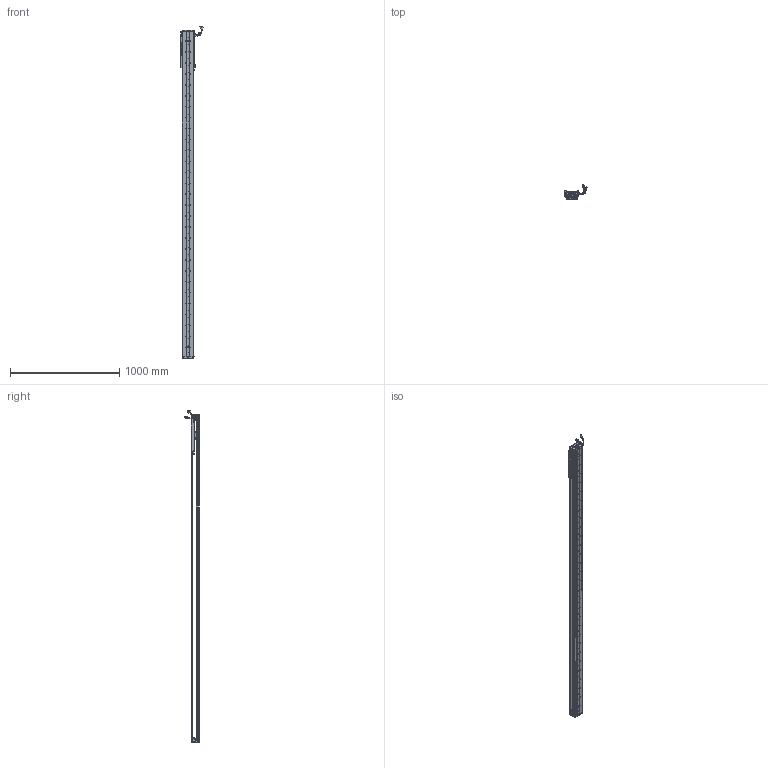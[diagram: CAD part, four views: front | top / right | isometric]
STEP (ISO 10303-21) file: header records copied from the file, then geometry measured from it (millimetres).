
FILE_DESCRIPTION (( 'STEP AP203' ), '1' );
FILE_NAME ('Z4-RY100D-1-L500-B-K.SLDASM_2600.step', '2021-05-17T03:04:45', ( '盈信电脑' ), ( '东莞市道滘镇水果街19号' ), 'SwSTEP 2.0', 'SolidWorks 2016', '' );
FILE_SCHEMA (( 'CONFIG_CONTROL_DESIGN' ));
Length unit declared in the file: millimetre
Products named in the file (36): SCREW-M1.6-2; SCALE; PBU_SHEET; SCALE-Part-1; LABEL; 100-Z-臏賑輸盄裔(21遴); SCREW-M1.7; SCREW-M1.6-1; Z4-RY100-L500詩湍90mm遵_2600; SEAL; Z4-RY100D-1-L500-B-K.SLDASM_2600; Z-RY100D詩湍狟揤裔; 140雄赽晤鎢ん堤盄; SCREW-M1.6-3; PSLH080_PSLF2; SCREW-M1.7-1; 080黍杅芛假蚾釱21遴; SHIELDPLATE; 140蚥薯蝶輸; HARNESS-Part-1; HARNESS; Z-RY100D詩湍奻揤裔; COVER-Part-1; HOLDER0; Z-RY100D覜茼んえ; Z4-RY100D-500-倰第菁釱_2600; COVER; Z-100詩湍傷裔啣; HARNESS-Part-2; SCREW-M1.6; 榋妏寠巭燃_暯_M2_2; SCALE-Part-2; Z4-RY100铝滑块（21款）; 覜茼ん672; LABEL-Part-1; SEAL-Part-1
Assembly tree (43 placements, depth 4):
  Z4-RY100D-1-L500-B-K.SLDASM_2600
    Z4-RY100D-500-倰第菁釱_2600
    Z4-RY100铝滑块（21款）
    PSLH080_PSLF2
      SCALE
        SCALE-Part-1
        SCALE-Part-2
      HARNESS
        HARNESS-Part-1
        HARNESS-Part-2
      LABEL
        LABEL-Part-1
      COVER
        COVER-Part-1
      SEAL
        SEAL-Part-1
      榋妏寠巭燃_暯_M2_2
      SHIELDPLATE
      SCREW-M1.7
      SCREW-M1.7-1
      PBU_SHEET
      SCREW-M1.6
      SCREW-M1.6-1
      SCREW-M1.6-2
      SCREW-M1.6-3
      HOLDER0
    080黍杅芛假蚾釱21遴
    Z-100詩湍傷裔啣  x2
    140蚥薯蝶輸  x2
    覜茼ん672  x3
    Z-RY100D覜茼んえ  x3
    100-Z-臏賑輸盄裔(21遴)
    140雄赽晤鎢ん堤盄
    Z4-RY100-L500詩湍90mm遵_2600
    Z-RY100D詩湍狟揤裔  x2
    Z-RY100D詩湍奻揤裔  x2
Bounding box: 205.79 x 136.11 x 3035.43 mm (x, y, z)
Volume: 5584048.4 mm3; surface area: 2187711.3 mm2
Topology: 38 solids, 38 shells, 3098 faces, 8509 edges, 5440 vertices
Faces by surface type: cylinder 1554, plane 1196, cone 226, torus 69, bspline 53
Entity records: 90637 total; most frequent: CARTESIAN_POINT 18950, DIRECTION 14665, ORIENTED_EDGE 13898, EDGE_CURVE 6949, AXIS2_PLACEMENT_3D 5535, VERTEX_POINT 4508, LINE 3595, VECTOR 3595
